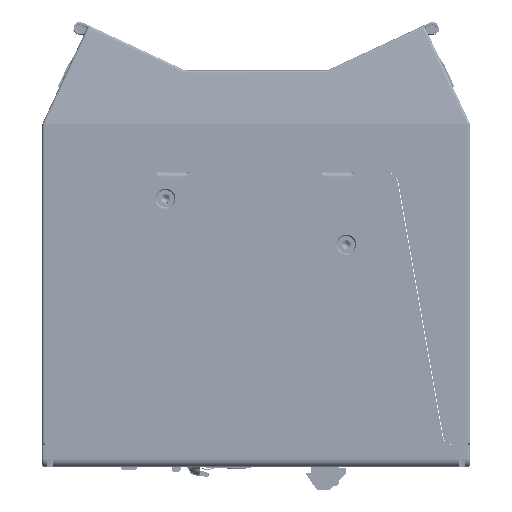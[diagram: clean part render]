
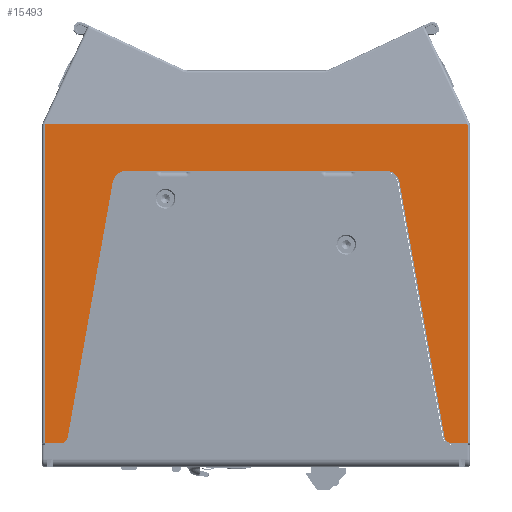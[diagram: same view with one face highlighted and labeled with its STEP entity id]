
A CAD part, left-side view. The second image highlights one B-rep face of the part: STEP entity #15493.
In plain terms, the highlighted planar face has unit normal (-1, 0, 0) as drawn and (1, 0, 0) by its records, which use the part's own axes.
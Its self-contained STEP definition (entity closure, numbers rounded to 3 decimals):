
#242 = CARTESIAN_POINT ( 'NONE',  ( 21., -10., 61.845 ) ) ;
#3817 = FACE_OUTER_BOUND ( 'NONE', #50481, .T. ) ;
#4332 = CARTESIAN_POINT ( 'NONE',  ( 21., -7.5, 61.845 ) ) ;
#4700 = DIRECTION ( 'NONE',  ( 0., 0., -1. ) ) ;
#4810 = CARTESIAN_POINT ( 'NONE',  ( 21., -93.5, 40.807 ) ) ;
#5520 = ORIENTED_EDGE ( 'NONE', *, *, #112726, .T. ) ;
#6807 = DIRECTION ( 'NONE',  ( 0., 1., 0. ) ) ;
#7573 = DIRECTION ( 'NONE',  ( 0., 0., 1. ) ) ;
#8144 = DIRECTION ( 'NONE',  ( -1., 0., 0. ) ) ;
#8571 = CIRCLE ( 'NONE', #148283, 2.5 ) ;
#8875 = EDGE_CURVE ( 'NONE', #20198, #115142, #102140, .T. ) ;
#10996 = DIRECTION ( 'NONE',  ( 0., 0.174, -0.985 ) ) ;
#12476 = DIRECTION ( 'NONE',  ( 0., 0.985, 0.174 ) ) ;
#12541 = EDGE_CURVE ( 'NONE', #122361, #34670, #25113, .T. ) ;
#14981 = DIRECTION ( 'NONE',  ( 0., -0.985, 0.174 ) ) ;
#15493 = ADVANCED_FACE ( 'NONE', ( #3817 ), #41355, .T. ) ;
#19669 = ORIENTED_EDGE ( 'NONE', *, *, #90961, .T. ) ;
#19670 = ORIENTED_EDGE ( 'NONE', *, *, #112682, .T. ) ;
#20009 = EDGE_CURVE ( 'NONE', #132152, #105949, #96117, .T. ) ;
#20198 = VERTEX_POINT ( 'NONE', #48101 ) ;
#20304 = CARTESIAN_POINT ( 'NONE',  ( 21., -63.88, -66.7 ) ) ;
#21942 = AXIS2_PLACEMENT_3D ( 'NONE', #88181, #111193, #133527 ) ;
#23640 = ORIENTED_EDGE ( 'NONE', *, *, #82081, .F. ) ;
#24392 = AXIS2_PLACEMENT_3D ( 'NONE', #112541, #8144, #99533 ) ;
#25097 = VERTEX_POINT ( 'NONE', #48359 ) ;
#25113 = LINE ( 'NONE', #4332, #117056 ) ;
#25258 = DIRECTION ( 'NONE',  ( 0., -0.766, -0.643 ) ) ;
#26023 = ORIENTED_EDGE ( 'NONE', *, *, #137768, .T. ) ;
#27039 = DIRECTION ( 'NONE',  ( 0., -0.112, 0.994 ) ) ;
#27502 = AXIS2_PLACEMENT_3D ( 'NONE', #86072, #132215, #27039 ) ;
#29129 = DIRECTION ( 'NONE',  ( 0., -0.112, -0.994 ) ) ;
#29828 = CARTESIAN_POINT ( 'NONE',  ( 21., -10., -61.845 ) ) ;
#32372 = CARTESIAN_POINT ( 'NONE',  ( 21., -92.447, 43.699 ) ) ;
#32779 = CIRCLE ( 'NONE', #148104, 3.2 ) ;
#34670 = VERTEX_POINT ( 'NONE', #141704 ) ;
#36518 = EDGE_CURVE ( 'NONE', #36617, #109088, #130868, .T. ) ;
#36617 = VERTEX_POINT ( 'NONE', #124650 ) ;
#37005 = DIRECTION ( 'NONE',  ( 1., 0., 0. ) ) ;
#38470 = LINE ( 'NONE', #39945, #132581 ) ;
#38755 = EDGE_CURVE ( 'NONE', #76999, #62229, #53905, .T. ) ;
#39275 = ORIENTED_EDGE ( 'NONE', *, *, #106766, .T. ) ;
#39905 = VECTOR ( 'NONE', #125658, 1000. ) ;
#39945 = CARTESIAN_POINT ( 'NONE',  ( 21., -108.09, 67.5 ) ) ;
#41355 = PLANE ( 'NONE',  #21942 ) ;
#45456 = LINE ( 'NONE', #57727, #133791 ) ;
#45570 = CARTESIAN_POINT ( 'NONE',  ( 21., -89.781, -45.238 ) ) ;
#46383 = LINE ( 'NONE', #20304, #96489 ) ;
#48101 = CARTESIAN_POINT ( 'NONE',  ( 21., -92.447, -43.699 ) ) ;
#48359 = CARTESIAN_POINT ( 'NONE',  ( 21., -89.781, 45.238 ) ) ;
#49879 = ORIENTED_EDGE ( 'NONE', *, *, #90008, .T. ) ;
#50481 = EDGE_LOOP ( 'NONE', ( #83365, #26023, #5520, #70201, #95866, #73113, #19670, #137417, #19669, #49879, #39275, #148148, #136408, #55105, #71548, #23640 ) ) ;
#51300 = AXIS2_PLACEMENT_3D ( 'NONE', #29828, #64348, #6807 ) ;
#51357 = LINE ( 'NONE', #112708, #139555 ) ;
#52161 = LINE ( 'NONE', #132098, #84937 ) ;
#52924 = DIRECTION ( 'NONE',  ( 0., 1., 0. ) ) ;
#53905 = CIRCLE ( 'NONE', #112758, 4.5 ) ;
#55105 = ORIENTED_EDGE ( 'NONE', *, *, #20009, .F. ) ;
#55564 = EDGE_CURVE ( 'NONE', #109088, #20198, #100293, .T. ) ;
#55609 = AXIS2_PLACEMENT_3D ( 'NONE', #76826, #86844, #66840 ) ;
#57727 = CARTESIAN_POINT ( 'NONE',  ( 21., -89.781, 45.238 ) ) ;
#62229 = VERTEX_POINT ( 'NONE', #32372 ) ;
#64348 = DIRECTION ( 'NONE',  ( 1., 0., 0. ) ) ;
#66840 = DIRECTION ( 'NONE',  ( 0., -0.766, 0.643 ) ) ;
#70201 = ORIENTED_EDGE ( 'NONE', *, *, #36518, .T. ) ;
#70335 = CARTESIAN_POINT ( 'NONE',  ( 21., -7.5, -66.7 ) ) ;
#71548 = ORIENTED_EDGE ( 'NONE', *, *, #78989, .T. ) ;
#73113 = ORIENTED_EDGE ( 'NONE', *, *, #8875, .T. ) ;
#74128 = DIRECTION ( 'NONE',  ( 0., 0., 1. ) ) ;
#76321 = VERTEX_POINT ( 'NONE', #138649 ) ;
#76826 = CARTESIAN_POINT ( 'NONE',  ( 21., -89., 40.807 ) ) ;
#76999 = VERTEX_POINT ( 'NONE', #4810 ) ;
#78705 = CARTESIAN_POINT ( 'NONE',  ( 21., -107.203, -63.5 ) ) ;
#78989 = EDGE_CURVE ( 'NONE', #132152, #76321, #38470, .T. ) ;
#80382 = DIRECTION ( 'NONE',  ( -1., 0., 0. ) ) ;
#81896 = CARTESIAN_POINT ( 'NONE',  ( 21., -89., 40.807 ) ) ;
#82081 = EDGE_CURVE ( 'NONE', #103598, #76321, #32779, .T. ) ;
#82633 = CARTESIAN_POINT ( 'NONE',  ( 21., -107.203, 66.7 ) ) ;
#83365 = ORIENTED_EDGE ( 'NONE', *, *, #138304, .F. ) ;
#84937 = VECTOR ( 'NONE', #52924, 1000. ) ;
#86072 = CARTESIAN_POINT ( 'NONE',  ( 21., -107.203, 63.5 ) ) ;
#86844 = DIRECTION ( 'NONE',  ( -1., 0., 0. ) ) ;
#88181 = CARTESIAN_POINT ( 'NONE',  ( 21., -70.215, 0. ) ) ;
#90008 = EDGE_CURVE ( 'NONE', #25097, #140705, #45456, .T. ) ;
#90961 = EDGE_CURVE ( 'NONE', #62229, #25097, #139087, .T. ) ;
#92310 = CARTESIAN_POINT ( 'NONE',  ( 21., -7.5, -66.7 ) ) ;
#92422 = CARTESIAN_POINT ( 'NONE',  ( 21., -107.203, -66.7 ) ) ;
#92856 = VERTEX_POINT ( 'NONE', #92310 ) ;
#93234 = DIRECTION ( 'NONE',  ( 0., -1., 0. ) ) ;
#93596 = CARTESIAN_POINT ( 'NONE',  ( 21., -93.5, -40.807 ) ) ;
#94937 = CARTESIAN_POINT ( 'NONE',  ( 21., -7.5, 61.845 ) ) ;
#95121 = CARTESIAN_POINT ( 'NONE',  ( 21., -89., -40.807 ) ) ;
#95866 = ORIENTED_EDGE ( 'NONE', *, *, #55564, .T. ) ;
#96117 = CIRCLE ( 'NONE', #27502, 3.2 ) ;
#96489 = VECTOR ( 'NONE', #93234, 1000. ) ;
#97219 = AXIS2_PLACEMENT_3D ( 'NONE', #95121, #117383, #25258 ) ;
#99533 = DIRECTION ( 'NONE',  ( 0., -0.174, -0.985 ) ) ;
#100293 = CIRCLE ( 'NONE', #24392, 4.5 ) ;
#102140 = CIRCLE ( 'NONE', #97219, 4.5 ) ;
#103598 = VERTEX_POINT ( 'NONE', #92422 ) ;
#105949 = VERTEX_POINT ( 'NONE', #82633 ) ;
#106766 = EDGE_CURVE ( 'NONE', #140705, #122361, #8571, .T. ) ;
#109088 = VERTEX_POINT ( 'NONE', #45570 ) ;
#111193 = DIRECTION ( 'NONE',  ( 1., 0., 0. ) ) ;
#112541 = CARTESIAN_POINT ( 'NONE',  ( 21., -89., -40.807 ) ) ;
#112682 = EDGE_CURVE ( 'NONE', #115142, #76999, #51357, .T. ) ;
#112708 = CARTESIAN_POINT ( 'NONE',  ( 21., -93.5, -40.807 ) ) ;
#112726 = EDGE_CURVE ( 'NONE', #141899, #36617, #134622, .T. ) ;
#112758 = AXIS2_PLACEMENT_3D ( 'NONE', #81896, #80382, #127290 ) ;
#114885 = LINE ( 'NONE', #70335, #39905 ) ;
#115142 = VERTEX_POINT ( 'NONE', #93596 ) ;
#117056 = VECTOR ( 'NONE', #74128, 1000. ) ;
#117383 = DIRECTION ( 'NONE',  ( -1., 0., 0. ) ) ;
#119338 = CARTESIAN_POINT ( 'NONE',  ( 21., -9.566, -59.383 ) ) ;
#122361 = VERTEX_POINT ( 'NONE', #94937 ) ;
#123327 = CARTESIAN_POINT ( 'NONE',  ( 21., -7.5, -61.845 ) ) ;
#124650 = CARTESIAN_POINT ( 'NONE',  ( 21., -9.566, -59.383 ) ) ;
#125658 = DIRECTION ( 'NONE',  ( 0., 0., 1. ) ) ;
#127290 = DIRECTION ( 'NONE',  ( 0., -1., 0. ) ) ;
#130868 = LINE ( 'NONE', #119338, #132217 ) ;
#132098 = CARTESIAN_POINT ( 'NONE',  ( 21., -63.88, 66.7 ) ) ;
#132152 = VERTEX_POINT ( 'NONE', #134785 ) ;
#132215 = DIRECTION ( 'NONE',  ( -1., 0., 0. ) ) ;
#132217 = VECTOR ( 'NONE', #14981, 1000. ) ;
#132581 = VECTOR ( 'NONE', #4700, 1000. ) ;
#133527 = DIRECTION ( 'NONE',  ( 0., 1., 0. ) ) ;
#133791 = VECTOR ( 'NONE', #12476, 1000. ) ;
#134622 = CIRCLE ( 'NONE', #51300, 2.5 ) ;
#134785 = CARTESIAN_POINT ( 'NONE',  ( 21., -108.09, 66.575 ) ) ;
#136408 = ORIENTED_EDGE ( 'NONE', *, *, #144771, .F. ) ;
#137417 = ORIENTED_EDGE ( 'NONE', *, *, #38755, .T. ) ;
#137768 = EDGE_CURVE ( 'NONE', #92856, #141899, #114885, .T. ) ;
#138304 = EDGE_CURVE ( 'NONE', #92856, #103598, #46383, .T. ) ;
#138649 = CARTESIAN_POINT ( 'NONE',  ( 21., -108.09, -66.575 ) ) ;
#139087 = CIRCLE ( 'NONE', #55609, 4.5 ) ;
#139555 = VECTOR ( 'NONE', #7573, 1000. ) ;
#140705 = VERTEX_POINT ( 'NONE', #151646 ) ;
#141704 = CARTESIAN_POINT ( 'NONE',  ( 21., -7.5, 66.7 ) ) ;
#141899 = VERTEX_POINT ( 'NONE', #123327 ) ;
#144771 = EDGE_CURVE ( 'NONE', #105949, #34670, #52161, .T. ) ;
#145832 = DIRECTION ( 'NONE',  ( -1., 0., 0. ) ) ;
#148104 = AXIS2_PLACEMENT_3D ( 'NONE', #78705, #145832, #29129 ) ;
#148148 = ORIENTED_EDGE ( 'NONE', *, *, #12541, .T. ) ;
#148283 = AXIS2_PLACEMENT_3D ( 'NONE', #242, #37005, #10996 ) ;
#151646 = CARTESIAN_POINT ( 'NONE',  ( 21., -9.566, 59.383 ) ) ;
